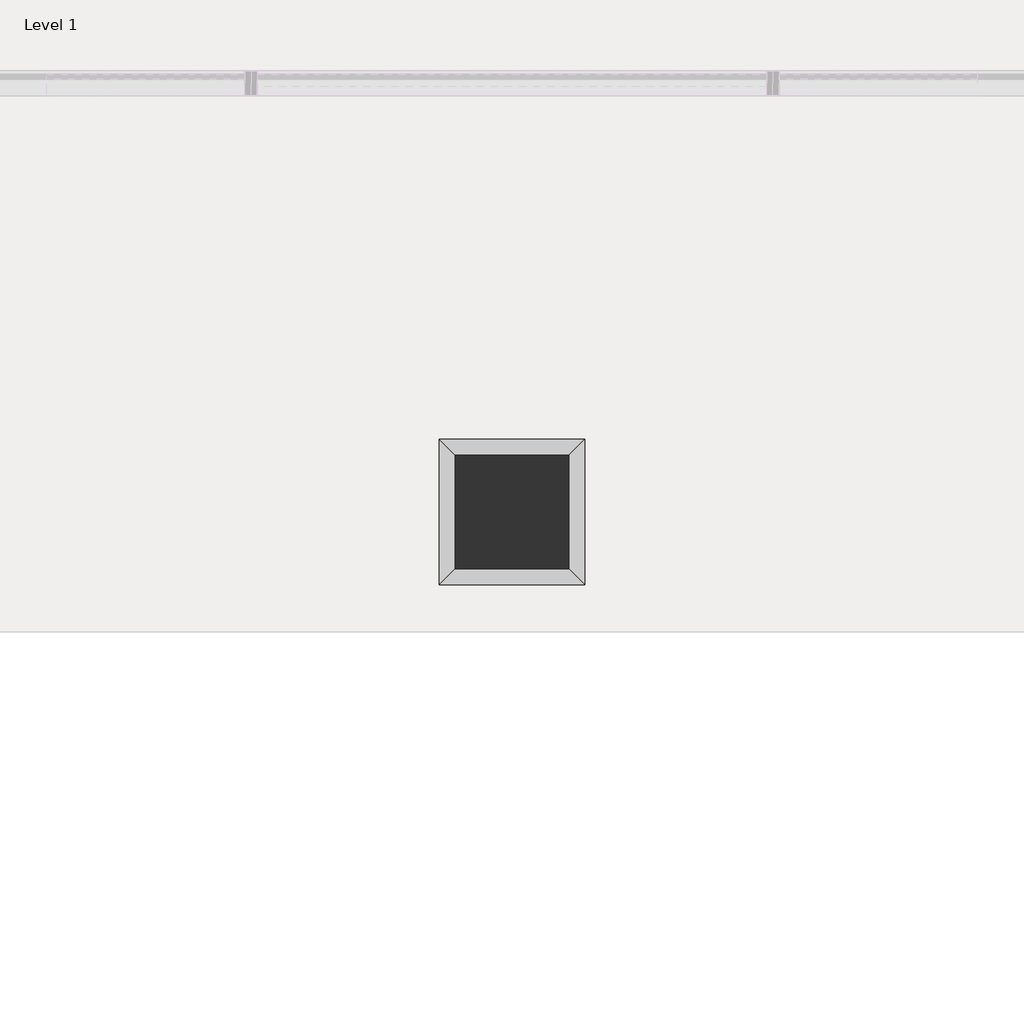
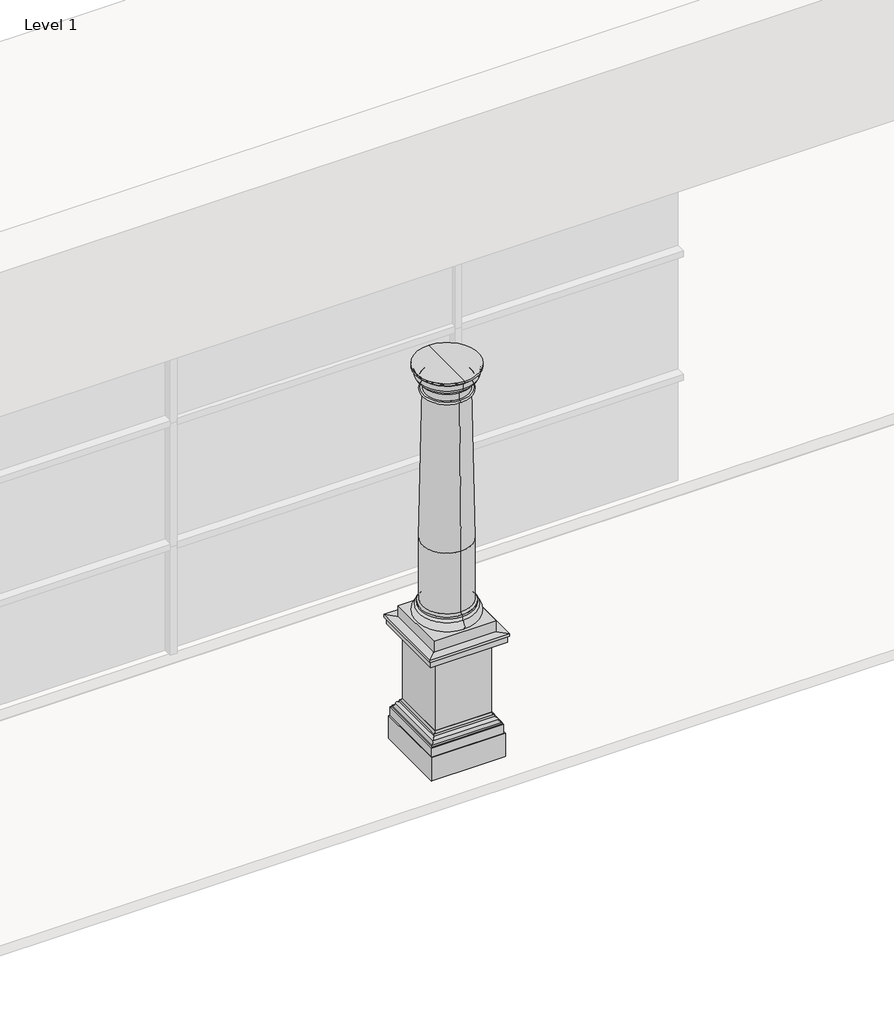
# One storey, part 5 of 8: 1 column.
"""IFC4 building model written with IfcOpenShell, lengths in millimetres."""

from ifc_helpers import new_model, si_unit, point, frame, origin, place, context, project, spatial, polyline, circle_curve, ellipse_curve, trimmed, outline, extrude, faceted_brep, element, save
from ifc_brep_helpers import plane_surface, cylinder_surface, revolved_surface, advanced_brep

model = new_model("IFC4")

# Units and contexts
model_context = context("Model", 3, world=origin())
ifc_project = project(units=[si_unit("LENGTHUNIT", "METRE", prefix="MILLI")], contexts=[model_context])

# Site, building, storey
site = spatial("IfcSite", under=ifc_project)
building = spatial("IfcBuilding", under=site)
storey = spatial("IfcBuildingStorey", under=building, Name="Level 1", Elevation=0.0)

# Column
placement = place(None, origin())
element("IfcColumn", 1, ObjectType="Doric Column : 16'  Height (10 2/3 x Dia.)", at=placement, inside=storey, context=model_context, shape_type="SolidModel", body=[
    extrude(outline(polyline([(5363.9045948, -1720.0769576), (5363.9045948, -2297.9269576), (4786.0545948, -2297.9269576), (4786.0545948, -1720.0769576), (5363.9045948, -1720.0769576)])), frame((0.0, 0.0, 1117.6), z_axis=(0.0, 0.0, 1.0), x_axis=(1.0, 0.0, 0.0)), (0.0, 0.0, 1.0), 107.95),
    faceted_brep([(4846.3795948, -2237.6019576, 1117.6), (4703.5045948, -2380.4769576, 1117.6), (5446.4545948, -2380.4769576, 1117.6), (5303.5795948, -2237.6019576, 1117.6), (4846.3795948, -2237.6019576, 1003.3), (5303.5795948, -2237.6019576, 1003.3), (4775.0966777, -2308.8848746, 1003.3), (5374.8625119, -2308.8848746, 1003.3), (4741.6045948, -2342.3769576, 1028.7), (5408.3545948, -2342.3769576, 1028.7), (4716.2045948, -2367.7769576, 1028.7), (5433.7545948, -2367.7769576, 1028.7), (4716.2045948, -2367.7769576, 1092.2), (5433.7545948, -2367.7769576, 1092.2), (4703.5045948, -2380.4769576, 1092.2), (5446.4545948, -2380.4769576, 1092.2), (5446.4545948, -1637.5269576, 1117.6), (5303.5795948, -1780.4019576, 1117.6), (5303.5795948, -1780.4019576, 1003.3), (5374.8625119, -1709.1190405, 1003.3), (5408.3545948, -1675.6269576, 1028.7), (5433.7545948, -1650.2269576, 1028.7), (5433.7545948, -1650.2269576, 1092.2), (5446.4545948, -1637.5269576, 1092.2), (4703.5045948, -1637.5269576, 1117.6), (4846.3795948, -1780.4019576, 1117.6), (4846.3795948, -1780.4019576, 1003.3), (4775.0966777, -1709.1190405, 1003.3), (4741.6045948, -1675.6269576, 1028.7), (4716.2045948, -1650.2269576, 1028.7), (4716.2045948, -1650.2269576, 1092.2), (4703.5045948, -1637.5269576, 1092.2)], [[[0, 1, 2, 3]], [[4, 0, 3, 5]], [[6, 4, 5, 7]], [[8, 6, 7, 9]], [[10, 8, 9, 11]], [[12, 10, 11, 13]], [[14, 12, 13, 15]], [[1, 14, 15, 2]], [[3, 2, 16, 17]], [[5, 3, 17, 18]], [[7, 5, 18, 19]], [[9, 7, 19, 20]], [[11, 9, 20, 21]], [[13, 11, 21, 22]], [[15, 13, 22, 23]], [[2, 15, 23, 16]], [[17, 16, 24, 25]], [[18, 17, 25, 26]], [[19, 18, 26, 27]], [[20, 19, 27, 28]], [[21, 20, 28, 29]], [[22, 21, 29, 30]], [[23, 22, 30, 31]], [[16, 23, 31, 24]], [[25, 24, 1, 0]], [[26, 25, 0, 4]], [[27, 26, 4, 6]], [[28, 27, 6, 8]], [[29, 28, 8, 10]], [[30, 29, 10, 12]], [[31, 30, 12, 14]], [[24, 31, 14, 1]]]),
    advanced_brep(
    [(5074.9795948, -2256.6519576, 1358.9), (5074.9795948, -1761.3519576, 1358.9), (5074.9795948, -1780.4019576, 1377.95), (5074.9795948, -2237.6019576, 1377.95), (5074.9795948, -1780.4019576, 1976.4375), (5074.9795948, -2237.6019576, 1976.4375), (5074.9795948, -2256.6519576, 1339.85), (5074.9795948, -1761.3519576, 1339.85), (5074.9795948, -2256.6519576, 1308.1), (5074.9795948, -1761.3519576, 1308.1), (5074.9795948, -2256.6519576, 1225.55), (5074.9795948, -1761.3519576, 1225.55), (5074.9795948, -2009.0019576, 1225.55), (5074.9795948, -1808.9769576, 3440.1125), (5074.9795948, -2209.0269576, 3440.1125), (5074.9795948, -2301.1019576, 3675.0625601), (5074.9795948, -1716.9019576, 3675.0625601), (5074.9795948, -1716.9019576, 3694.1125), (5074.9795948, -2301.1019576, 3694.1125), (5074.9795948, -2009.0019576, 3694.1125), (5074.9795948, -2282.0518974, 3656.0125), (5074.9795948, -1735.9520177, 3656.0125), (5074.9795948, -2278.8769576, 3656.0125), (5074.9795948, -1739.1269576, 3656.0125), (5074.9795948, -2278.8769576, 3605.2125), (5074.9795948, -1739.1269576, 3605.2125), (5074.9795948, -2272.5269576, 3605.2125), (5074.9795948, -1745.4769576, 3605.2125), (5074.9795948, -2228.0769576, 3560.7625), (5074.9795948, -1789.9269576, 3560.7625), (5074.9795948, -2228.0769576, 3541.7125), (5074.9795948, -1789.9269576, 3541.7125), (5074.9795948, -2209.0269576, 3541.7125), (5074.9795948, -1808.9769576, 3541.7125), (5074.9795948, -2209.0269576, 3459.1625), (5074.9795948, -1808.9769576, 3459.1625), (5074.9795948, -2228.0769576, 3459.1625), (5074.9795948, -1789.9269576, 3459.1625), (5074.9795948, -2228.0769576, 3440.1125), (5074.9795948, -1789.9269576, 3440.1125)],
    [
        (0, 1, circle_curve(frame((5074.9795948, -2009.0019576, 1358.9), z_axis=(0.0, 0.0, 1.0), x_axis=(0.0, 1.0, 0.0)), 247.65)),
        (1, 2, circle_curve(frame((5074.9795948, -1761.3519576, 1377.95), z_axis=(-1.0, 0.0, 0.0), x_axis=(0.0, -1.0, 0.0)), 19.05)),
        (2, 3, circle_curve(frame((5074.9795948, -2009.0019576, 1377.95), z_axis=(0.0, 0.0, -1.0), x_axis=(0.0, 1.0, 0.0)), 228.6)),
        (3, 0, circle_curve(frame((5074.9795948, -2256.6519576, 1377.95), z_axis=(-1.0, 0.0, 0.0), x_axis=(0.0, 1.0, 0.0)), 19.05)),
        (2, 4),
        (4, 5, circle_curve(frame((5074.9795948, -2009.0019576, 1976.4375), z_axis=(0.0, 0.0, -1.0), x_axis=(0.0, 1.0, 0.0)), 228.6)),
        (5, 3),
        (2, 3, circle_curve(frame((5074.9795948, -2009.0019576, 1377.95), z_axis=(0.0, 0.0, 1.0), x_axis=(0.0, 1.0, 0.0)), 228.6)),
        (5, 4, circle_curve(frame((5074.9795948, -2009.0019576, 1976.4375), z_axis=(0.0, 0.0, -1.0), x_axis=(0.0, 1.0, 0.0)), 228.6)),
        (1, 0, circle_curve(frame((5074.9795948, -2009.0019576, 1358.9), z_axis=(0.0, 0.0, 1.0), x_axis=(0.0, 1.0, 0.0)), 247.65)),
        (6, 7, circle_curve(frame((5074.9795948, -2009.0019576, 1339.85), z_axis=(0.0, 0.0, 1.0), x_axis=(0.0, 1.0, 0.0)), 247.65)),
        (7, 1),
        (0, 6),
        (7, 6, circle_curve(frame((5074.9795948, -2009.0019576, 1339.85), z_axis=(0.0, 0.0, 1.0), x_axis=(0.0, 1.0, 0.0)), 247.65)),
        (8, 9, circle_curve(frame((5074.9795948, -2009.0019576, 1308.1), z_axis=(0.0, 0.0, 1.0), x_axis=(0.0, 1.0, 0.0)), 247.65)),
        (9, 7, circle_curve(frame((5074.9795948, -1761.3519576, 1323.975), z_axis=(1.0, 0.0, 0.0), x_axis=(0.0, -1.0, 0.0)), 15.875)),
        (6, 8, circle_curve(frame((5074.9795948, -2256.6519576, 1323.975), z_axis=(1.0, 0.0, 0.0), x_axis=(0.0, 1.0, 0.0)), 15.875)),
        (9, 8, circle_curve(frame((5074.9795948, -2009.0019576, 1308.1), z_axis=(0.0, 0.0, 1.0), x_axis=(0.0, 1.0, 0.0)), 247.65)),
        (10, 11, circle_curve(frame((5074.9795948, -2009.0019576, 1225.55), z_axis=(0.0, 0.0, 1.0), x_axis=(0.0, 1.0, 0.0)), 247.65)),
        (11, 9, circle_curve(frame((5074.9795948, -1761.3519576, 1266.825), z_axis=(1.0, 0.0, 0.0), x_axis=(0.0, -1.0, 0.0)), 41.275)),
        (8, 10, circle_curve(frame((5074.9795948, -2256.6519576, 1266.825), z_axis=(1.0, 0.0, 0.0), x_axis=(0.0, 1.0, 0.0)), 41.275)),
        (11, 10, circle_curve(frame((5074.9795948, -2009.0019576, 1225.55), z_axis=(0.0, 0.0, 1.0), x_axis=(0.0, 1.0, 0.0)), 247.65)),
        (12, 11),
        (10, 12),
        (4, 13),
        (13, 14, circle_curve(frame((5074.9795948, -2009.0019576, 3440.1125), z_axis=(0.0, 0.0, -1.0), x_axis=(0.0, 1.0, 0.0)), 200.025)),
        (14, 5),
        (14, 13, circle_curve(frame((5074.9795948, -2009.0019576, 3440.1125), z_axis=(0.0, 0.0, -1.0), x_axis=(0.0, 1.0, 0.0)), 200.025)),
        (15, 16, circle_curve(frame((5074.9795948, -2009.0019576, 3675.0625601), z_axis=(0.0, 0.0, 1.0), x_axis=(0.0, 1.0, 0.0)), 292.1)),
        (16, 17),
        (17, 18, circle_curve(frame((5074.9795948, -2009.0019576, 3694.1125), z_axis=(0.0, 0.0, -1.0), x_axis=(0.0, 1.0, 0.0)), 292.1)),
        (18, 15),
        (17, 19),
        (19, 18),
        (17, 18, circle_curve(frame((5074.9795948, -2009.0019576, 3694.1125), z_axis=(0.0, 0.0, 1.0), x_axis=(0.0, 1.0, 0.0)), 292.1)),
        (16, 15, circle_curve(frame((5074.9795948, -2009.0019576, 3675.0625601), z_axis=(0.0, 0.0, 1.0), x_axis=(0.0, 1.0, 0.0)), 292.1)),
        (20, 21, circle_curve(frame((5074.9795948, -2009.0019576, 3656.0125), z_axis=(0.0, 0.0, 1.0), x_axis=(0.0, 1.0, 0.0)), 273.0499399)),
        (21, 16, circle_curve(frame((5074.9795948, -1716.9019576, 3656.0125), z_axis=(-1.0, 0.0, 0.0), x_axis=(0.0, -1.0, 0.0)), 19.0500601)),
        (15, 20, circle_curve(frame((5074.9795948, -2301.1019576, 3656.0125), z_axis=(-1.0, 0.0, 0.0), x_axis=(0.0, 1.0, 0.0)), 19.0500601)),
        (21, 20, circle_curve(frame((5074.9795948, -2009.0019576, 3656.0125), z_axis=(0.0, 0.0, 1.0), x_axis=(0.0, 1.0, 0.0)), 273.0499399)),
        (22, 23, circle_curve(frame((5074.9795948, -2009.0019576, 3656.0125), z_axis=(0.0, 0.0, 1.0), x_axis=(0.0, 1.0, 0.0)), 269.875)),
        (23, 21),
        (20, 22),
        (23, 22, circle_curve(frame((5074.9795948, -2009.0019576, 3656.0125), z_axis=(0.0, 0.0, 1.0), x_axis=(0.0, 1.0, 0.0)), 269.875)),
        (24, 25, circle_curve(frame((5074.9795948, -2009.0019576, 3605.2125), z_axis=(0.0, 0.0, 1.0), x_axis=(0.0, 1.0, 0.0)), 269.875)),
        (25, 23),
        (22, 24),
        (25, 24, circle_curve(frame((5074.9795948, -2009.0019576, 3605.2125), z_axis=(0.0, 0.0, 1.0), x_axis=(0.0, 1.0, 0.0)), 269.875)),
        (26, 27, circle_curve(frame((5074.9795948, -2009.0019576, 3605.2125), z_axis=(0.0, 0.0, 1.0), x_axis=(0.0, 1.0, 0.0)), 263.525)),
        (27, 25),
        (24, 26),
        (27, 26, circle_curve(frame((5074.9795948, -2009.0019576, 3605.2125), z_axis=(0.0, 0.0, 1.0), x_axis=(0.0, 1.0, 0.0)), 263.525)),
        (28, 29, circle_curve(frame((5074.9795948, -2009.0019576, 3560.7625), z_axis=(0.0, 0.0, 1.0), x_axis=(0.0, 1.0, 0.0)), 219.075)),
        (29, 27, circle_curve(frame((5074.9795948, -1789.9269576, 3605.2125), z_axis=(1.0, 0.0, 0.0), x_axis=(0.0, -1.0, 0.0)), 44.45)),
        (26, 28, circle_curve(frame((5074.9795948, -2228.0769576, 3605.2125), z_axis=(1.0, 0.0, 0.0), x_axis=(0.0, 1.0, 0.0)), 44.45)),
        (29, 28, circle_curve(frame((5074.9795948, -2009.0019576, 3560.7625), z_axis=(0.0, 0.0, 1.0), x_axis=(0.0, 1.0, 0.0)), 219.075)),
        (30, 31, circle_curve(frame((5074.9795948, -2009.0019576, 3541.7125), z_axis=(0.0, 0.0, 1.0), x_axis=(0.0, 1.0, 0.0)), 219.075)),
        (31, 29, circle_curve(frame((5074.9795948, -1789.9269576, 3551.2375), z_axis=(1.0, 0.0, 0.0), x_axis=(0.0, -1.0, 0.0)), 9.525)),
        (28, 30, circle_curve(frame((5074.9795948, -2228.0769576, 3551.2375), z_axis=(1.0, 0.0, 0.0), x_axis=(0.0, 1.0, 0.0)), 9.525)),
        (31, 30, circle_curve(frame((5074.9795948, -2009.0019576, 3541.7125), z_axis=(0.0, 0.0, 1.0), x_axis=(0.0, 1.0, 0.0)), 219.075)),
        (32, 33, circle_curve(frame((5074.9795948, -2009.0019576, 3541.7125), z_axis=(0.0, 0.0, 1.0), x_axis=(0.0, 1.0, 0.0)), 200.025)),
        (33, 31),
        (30, 32),
        (33, 32, circle_curve(frame((5074.9795948, -2009.0019576, 3541.7125), z_axis=(0.0, 0.0, 1.0), x_axis=(0.0, 1.0, 0.0)), 200.025)),
        (34, 35, circle_curve(frame((5074.9795948, -2009.0019576, 3459.1625), z_axis=(0.0, 0.0, 1.0), x_axis=(0.0, 1.0, 0.0)), 200.025)),
        (35, 33),
        (32, 34),
        (35, 34, circle_curve(frame((5074.9795948, -2009.0019576, 3459.1625), z_axis=(0.0, 0.0, 1.0), x_axis=(0.0, 1.0, 0.0)), 200.025)),
        (36, 37, circle_curve(frame((5074.9795948, -2009.0019576, 3459.1625), z_axis=(0.0, 0.0, 1.0), x_axis=(0.0, 1.0, 0.0)), 219.075)),
        (37, 35),
        (34, 36),
        (37, 36, circle_curve(frame((5074.9795948, -2009.0019576, 3459.1625), z_axis=(0.0, 0.0, 1.0), x_axis=(0.0, 1.0, 0.0)), 219.075)),
        (38, 39, circle_curve(frame((5074.9795948, -2009.0019576, 3440.1125), z_axis=(0.0, 0.0, 1.0), x_axis=(0.0, 1.0, 0.0)), 219.075)),
        (39, 37, circle_curve(frame((5074.9795948, -1789.9269576, 3449.6375), z_axis=(1.0, 0.0, 0.0), x_axis=(0.0, -1.0, 0.0)), 9.525)),
        (36, 38, circle_curve(frame((5074.9795948, -2228.0769576, 3449.6375), z_axis=(1.0, 0.0, 0.0), x_axis=(0.0, 1.0, 0.0)), 9.525)),
        (39, 38, circle_curve(frame((5074.9795948, -2009.0019576, 3440.1125), z_axis=(0.0, 0.0, 1.0), x_axis=(0.0, 1.0, 0.0)), 219.075)),
        (13, 39),
        (38, 14),
    ],
    [
        revolved_surface(trimmed(ellipse_curve(frame((5074.9795948, -1761.3519576, 1377.95), z_axis=(1.0, 0.0, 0.0), x_axis=(0.0, -1.0, 0.0)), 19.05, 19.05), [point((5074.9795948, -1780.4019576, 1377.95))], [point((5074.9795948, -1761.3519576, 1358.9))], True, "CARTESIAN"), (5074.9795948, -2009.0019576, 3694.1125), (0.0, 0.0, -1.0)),
        cylinder_surface(frame((5074.9795948, -2009.0019576, 3694.1125), z_axis=(0.0, 0.0, -1.0), x_axis=(0.0, 1.0, 0.0)), 228.6),
        cylinder_surface(frame((5074.9795948, -2009.0019576, 3694.1125), z_axis=(0.0, 0.0, -1.0), x_axis=(0.0, 1.0, 0.0)), 247.65),
        revolved_surface(trimmed(ellipse_curve(frame((5074.9795948, -1761.3519576, 1323.975), z_axis=(-1.0, 0.0, 0.0), x_axis=(0.0, -1.0, 0.0)), 15.875, 15.875), [point((5074.9795948, -1761.3519576, 1339.85))], [point((5074.9795948, -1761.3519576, 1308.1))], True, "CARTESIAN"), (5074.9795948, -2009.0019576, 3694.1125), (0.0, 0.0, -1.0)),
        revolved_surface(trimmed(ellipse_curve(frame((5074.9795948, -1761.3519576, 1266.825), z_axis=(-1.0, 0.0, 0.0), x_axis=(0.0, -1.0, 0.0)), 41.275, 41.275), [point((5074.9795948, -1761.3519576, 1308.1))], [point((5074.9795948, -1761.3519576, 1225.55))], True, "CARTESIAN"), (5074.9795948, -2009.0019576, 3694.1125), (0.0, 0.0, -1.0)),
        plane_surface(frame((5074.9795948, -2009.0019576, 1225.55), z_axis=(0.0, 0.0, -1.0), x_axis=(0.0, 1.0, 0.0))),
        revolved_surface(polyline([(5074.9795948, -1808.9769576, 3440.1125), (5074.9795948, -1780.4019576, 1976.4375)]), (5074.9795948, -2009.0019576, 3694.1125), (0.0, 0.0, -1.0)),
        cylinder_surface(frame((5074.9795948, -2009.0019576, 3694.1125), z_axis=(0.0, 0.0, -1.0), x_axis=(0.0, 1.0, 0.0)), 292.1),
        plane_surface(frame((5074.9795948, -2009.0019576, 3694.1125), z_axis=(0.0, 0.0, 1.0), x_axis=(0.0, 1.0, 0.0))),
        revolved_surface(trimmed(ellipse_curve(frame((5074.9795948, -1716.9019576, 3656.0125), z_axis=(1.0, 0.0, 0.0), x_axis=(0.0, -1.0, 0.0)), 19.0500601, 19.0500601), [point((5074.9795948, -1716.9019576, 3675.0625601))], [point((5074.9795948, -1735.9520177, 3656.0125))], True, "CARTESIAN"), (5074.9795948, -2009.0019576, 3694.1125), (0.0, 0.0, -1.0)),
        plane_surface(frame((5074.9795948, -2009.0019576, 3656.0125), z_axis=(0.0, 0.0, -1.0), x_axis=(0.0, 1.0, 0.0))),
        cylinder_surface(frame((5074.9795948, -2009.0019576, 3694.1125), z_axis=(0.0, 0.0, -1.0), x_axis=(0.0, 1.0, 0.0)), 269.875),
        plane_surface(frame((5074.9795948, -2009.0019576, 3605.2125), z_axis=(0.0, 0.0, -1.0), x_axis=(0.0, 1.0, 0.0))),
        revolved_surface(trimmed(ellipse_curve(frame((5074.9795948, -1789.9269576, 3605.2125), z_axis=(-1.0, 0.0, 0.0), x_axis=(0.0, -1.0, 0.0)), 44.45, 44.45), [point((5074.9795948, -1745.4769576, 3605.2125))], [point((5074.9795948, -1789.9269576, 3560.7625))], True, "CARTESIAN"), (5074.9795948, -2009.0019576, 3694.1125), (0.0, 0.0, -1.0)),
        revolved_surface(trimmed(ellipse_curve(frame((5074.9795948, -1789.9269576, 3551.2375), z_axis=(-1.0, 0.0, 0.0), x_axis=(0.0, -1.0, 0.0)), 9.525, 9.525), [point((5074.9795948, -1789.9269576, 3560.7625))], [point((5074.9795948, -1789.9269576, 3541.7125))], True, "CARTESIAN"), (5074.9795948, -2009.0019576, 3694.1125), (0.0, 0.0, -1.0)),
        plane_surface(frame((5074.9795948, -2009.0019576, 3541.7125), z_axis=(0.0, 0.0, -1.0), x_axis=(0.0, 1.0, 0.0))),
        cylinder_surface(frame((5074.9795948, -2009.0019576, 3694.1125), z_axis=(0.0, 0.0, -1.0), x_axis=(0.0, 1.0, 0.0)), 200.025),
        plane_surface(frame((5074.9795948, -2009.0019576, 3459.1625), z_axis=(0.0, 0.0, 1.0), x_axis=(0.0, 1.0, 0.0))),
        revolved_surface(trimmed(ellipse_curve(frame((5074.9795948, -1789.9269576, 3449.6375), z_axis=(-1.0, 0.0, 0.0), x_axis=(0.0, -1.0, 0.0)), 9.525, 9.525), [point((5074.9795948, -1789.9269576, 3459.1625))], [point((5074.9795948, -1789.9269576, 3440.1125))], True, "CARTESIAN"), (5074.9795948, -2009.0019576, 3694.1125), (0.0, 0.0, -1.0)),
        plane_surface(frame((5074.9795948, -2009.0019576, 3440.1125), z_axis=(0.0, 0.0, -1.0), x_axis=(0.0, 1.0, 0.0))),
    ],
    [
        (0, [[1, 2, 3, 4]]),
        (1, [[-3, 5, 6, 7]]),
        (1, [[8, -7, 9, -5]]),
        (0, [[10, -4, -8, -2]]),
        (2, [[11, 12, -1, 13]]),
        (2, [[14, -13, -10, -12]]),
        (3, [[15, 16, -11, 17]]),
        (3, [[18, -17, -14, -16]]),
        (4, [[19, 20, -15, 21]]),
        (4, [[22, -21, -18, -20]]),
        (5, [[23, -19, 24]]),
        (5, [[-24, -22, -23]]),
        (6, [[-6, 25, 26, 27]]),
        (6, [[-9, -27, 28, -25]]),
        (7, [[29, 30, 31, 32]]),
        (8, [[-31, 33, 34]]),
        (8, [[35, -34, -33]]),
        (7, [[36, -32, -35, -30]]),
        (9, [[37, 38, -29, 39]]),
        (9, [[40, -39, -36, -38]]),
        (10, [[41, 42, -37, 43]]),
        (10, [[44, -43, -40, -42]]),
        (11, [[45, 46, -41, 47]]),
        (11, [[48, -47, -44, -46]]),
        (12, [[49, 50, -45, 51]]),
        (12, [[52, -51, -48, -50]]),
        (13, [[53, 54, -49, 55]]),
        (13, [[56, -55, -52, -54]]),
        (14, [[57, 58, -53, 59]]),
        (14, [[60, -59, -56, -58]]),
        (15, [[61, 62, -57, 63]]),
        (15, [[64, -63, -60, -62]]),
        (16, [[65, 66, -61, 67]]),
        (16, [[68, -67, -64, -66]]),
        (17, [[69, 70, -65, 71]]),
        (17, [[72, -71, -68, -70]]),
        (18, [[73, 74, -69, 75]]),
        (18, [[76, -75, -72, -74]]),
        (19, [[-26, 77, -73, 78]]),
        (19, [[-28, -78, -76, -77]]),
    ],
),
    advanced_brep(
    [(5420.4247411, -1663.5568112, -101.6), (5420.4247411, -1663.5568112, 127.0), (5420.4247411, -2354.4471039, 127.0), (5420.4247411, -2354.4471039, -101.6), (5303.5795948, -1780.4019576, -101.6), (5303.5795948, -2237.6019576, -101.6), (5303.5795948, -1780.4019576, 317.5), (5303.5795948, -2237.6019576, 317.5), (5337.8747411, -1746.1068112, 317.5), (5337.8747411, -2271.8971039, 317.5), (5356.9247411, -1727.0568112, 298.45), (5356.9247411, -2290.9471039, 298.45), (5356.9247411, -1727.0568112, 279.4), (5356.9247411, -2290.9471039, 279.4), (5379.1497411, -1704.8318112, 257.175), (5379.1497411, -2313.1721039, 257.175), (5401.3747411, -1682.6068112, 234.95), (5401.3747411, -2335.3971039, 234.95), (5401.3747411, -1682.6068112, 215.9), (5401.3747411, -2335.3971039, 215.9), (5410.8997411, -1673.0818112, 215.9), (5410.8997411, -2344.9221039, 215.9), (5410.8997411, -1673.0818112, 127.0), (5410.8997411, -2344.9221039, 127.0), (4729.5344485, -2354.4471039, 127.0), (4729.5344485, -2354.4471039, -101.6), (4846.3795948, -2237.6019576, -101.6), (4846.3795948, -2237.6019576, 317.5), (4812.0844485, -2271.8971039, 317.5), (4793.0344485, -2290.9471039, 298.45), (4793.0344485, -2290.9471039, 279.4), (4770.8094485, -2313.1721039, 257.175), (4748.5844485, -2335.3971039, 234.95), (4748.5844485, -2335.3971039, 215.9), (4739.0594485, -2344.9221039, 215.9), (4739.0594485, -2344.9221039, 127.0), (4729.5344485, -1663.5568112, 127.0), (4729.5344485, -1663.5568112, -101.6), (4846.3795948, -1780.4019576, -101.6), (4846.3795948, -1780.4019576, 317.5), (4812.0844485, -1746.1068112, 317.5), (4793.0344485, -1727.0568112, 298.45), (4793.0344485, -1727.0568112, 279.4), (4770.8094485, -1704.8318112, 257.175), (4748.5844485, -1682.6068112, 234.95), (4748.5844485, -1682.6068112, 215.9), (4739.0594485, -1673.0818112, 215.9), (4739.0594485, -1673.0818112, 127.0)],
    [
        (0, 1),
        (1, 2),
        (2, 3),
        (3, 0),
        (4, 0),
        (3, 5),
        (5, 4),
        (6, 4),
        (5, 7),
        (7, 6),
        (8, 6),
        (7, 9),
        (9, 8),
        (10, 8, ellipse_curve(frame((5356.9247411, -1727.0568112, 317.5), z_axis=(-0.7071067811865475, 0.7071067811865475, 0.0), x_axis=(-0.7071067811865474, -0.7071067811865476, 0.0)), 26.9407684, 19.05)),
        (9, 11, ellipse_curve(frame((5356.9247411, -2290.9471039, 317.5), z_axis=(-0.7071067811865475, -0.7071067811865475, 0.0), x_axis=(0.7071067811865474, -0.7071067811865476, 0.0)), 26.9407684, 19.05)),
        (11, 10),
        (12, 10),
        (11, 13),
        (13, 12),
        (14, 12, ellipse_curve(frame((5356.9247411, -1727.0568112, 257.175), z_axis=(0.7071067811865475, -0.7071067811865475, 0.0), x_axis=(0.7071067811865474, 0.7071067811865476, 0.0)), 31.4308964, 22.225)),
        (13, 15, ellipse_curve(frame((5356.9247411, -2290.9471039, 257.175), z_axis=(0.7071067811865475, 0.7071067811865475, 0.0), x_axis=(-0.7071067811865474, 0.7071067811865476, 0.0)), 31.4308964, 22.225)),
        (15, 14),
        (16, 14, ellipse_curve(frame((5401.3747411, -1682.6068112, 257.175), z_axis=(-0.7071067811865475, 0.7071067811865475, 0.0), x_axis=(-0.7071067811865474, -0.7071067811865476, 0.0)), 31.4308964, 22.225)),
        (15, 17, ellipse_curve(frame((5401.3747411, -2335.3971039, 257.175), z_axis=(-0.7071067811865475, -0.7071067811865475, 0.0), x_axis=(0.7071067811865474, -0.7071067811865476, 0.0)), 31.4308964, 22.225)),
        (17, 16),
        (18, 16),
        (17, 19),
        (19, 18),
        (20, 18),
        (19, 21),
        (21, 20),
        (22, 20),
        (21, 23),
        (23, 22),
        (1, 22),
        (23, 2),
        (2, 24),
        (24, 25),
        (25, 3),
        (25, 26),
        (26, 5),
        (26, 27),
        (27, 7),
        (27, 28),
        (28, 9),
        (28, 29, ellipse_curve(frame((4793.0344485, -2290.9471039, 317.5), z_axis=(-0.7071067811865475, 0.7071067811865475, 0.0), x_axis=(-0.7071067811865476, -0.7071067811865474, 0.0)), 26.9407684, 19.05)),
        (29, 11),
        (29, 30),
        (30, 13),
        (30, 31, ellipse_curve(frame((4793.0344485, -2290.9471039, 257.175), z_axis=(0.7071067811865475, -0.7071067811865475, 0.0), x_axis=(0.7071067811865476, 0.7071067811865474, 0.0)), 31.4308964, 22.225)),
        (31, 15),
        (31, 32, ellipse_curve(frame((4748.5844485, -2335.3971039, 257.175), z_axis=(-0.7071067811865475, 0.7071067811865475, 0.0), x_axis=(-0.7071067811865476, -0.7071067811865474, 0.0)), 31.4308964, 22.225)),
        (32, 17),
        (32, 33),
        (33, 19),
        (33, 34),
        (34, 21),
        (34, 35),
        (35, 23),
        (35, 24),
        (24, 36),
        (36, 37),
        (37, 25),
        (37, 38),
        (38, 26),
        (38, 39),
        (39, 27),
        (39, 40),
        (40, 28),
        (40, 41, ellipse_curve(frame((4793.0344485, -1727.0568112, 317.5), z_axis=(0.7071067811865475, 0.7071067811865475, 0.0), x_axis=(-0.7071067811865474, 0.7071067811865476, 0.0)), 26.9407684, 19.05)),
        (41, 29),
        (41, 42),
        (42, 30),
        (42, 43, ellipse_curve(frame((4793.0344485, -1727.0568112, 257.175), z_axis=(-0.7071067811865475, -0.7071067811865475, 0.0), x_axis=(0.7071067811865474, -0.7071067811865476, 0.0)), 31.4308964, 22.225)),
        (43, 31),
        (43, 44, ellipse_curve(frame((4748.5844485, -1682.6068112, 257.175), z_axis=(0.7071067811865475, 0.7071067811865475, 0.0), x_axis=(-0.7071067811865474, 0.7071067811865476, 0.0)), 31.4308964, 22.225)),
        (44, 32),
        (44, 45),
        (45, 33),
        (45, 46),
        (46, 34),
        (46, 47),
        (47, 35),
        (47, 36),
        (36, 1),
        (0, 37),
        (4, 38),
        (6, 39),
        (8, 40),
        (10, 41),
        (12, 42),
        (14, 43),
        (16, 44),
        (18, 45),
        (20, 46),
        (22, 47),
    ],
    [
        plane_surface(frame((5420.4247411, -1663.5568112, 127.0), z_axis=(1.0, 0.0, 0.0), x_axis=(0.0, -1.0, 0.0))),
        plane_surface(frame((5420.4247411, -1663.5568112, -101.6), z_axis=(0.0, 0.0, -1.0), x_axis=(0.0, -1.0, 0.0))),
        plane_surface(frame((5303.5795948, -1780.4019576, -101.6), z_axis=(-1.0, 0.0, 0.0), x_axis=(0.0, -1.0, 0.0))),
        plane_surface(frame((5303.5795948, -1780.4019576, 317.5), z_axis=(0.0, 0.0, 1.0), x_axis=(0.0, -1.0, 0.0))),
        revolved_surface(polyline([(5375.9747411, -2309.9971039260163, 317.5), (5375.9747411, -1708.0068111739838, 317.5)]), (5356.9247411, -1650.5418844, 317.5), (0.0, -1.0, 0.0)),
        plane_surface(frame((5356.9247411, -1727.0568112, 298.45), z_axis=(1.0, 0.0, 0.0), x_axis=(0.0, -1.0, 0.0))),
        cylinder_surface(frame((5356.9247411, -1650.5418844, 257.175), z_axis=(0.0, 1.0, 0.0), x_axis=(1.0, 0.0, 0.0)), 22.225),
        revolved_surface(polyline([(5423.599741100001, -2357.622103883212, 257.175), (5423.599741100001, -1660.3818112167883, 257.175)]), (5401.3747411, -1650.5418844, 257.175), (0.0, -1.0, 0.0)),
        plane_surface(frame((5401.3747411, -1682.6068112, 234.95), z_axis=(1.0, 0.0, 0.0), x_axis=(0.0, -1.0, 0.0))),
        plane_surface(frame((5401.3747411, -1682.6068112, 215.9), z_axis=(0.0, 0.0, 1.0), x_axis=(0.0, -1.0, 0.0))),
        plane_surface(frame((5410.8997411, -1673.0818112, 215.9), z_axis=(1.0, 0.0, 0.0), x_axis=(0.0, -1.0, 0.0))),
        plane_surface(frame((5410.8997411, -1673.0818112, 127.0), z_axis=(0.0, 0.0, 1.0), x_axis=(0.0, -1.0, 0.0))),
        plane_surface(frame((5420.4247411, -2354.4471039, 127.0), z_axis=(0.0, -1.0, 0.0), x_axis=(-1.0, 0.0, 0.0))),
        plane_surface(frame((5420.4247411, -2354.4471039, -101.6), z_axis=(0.0, 0.0, -1.0), x_axis=(-1.0, 0.0, 0.0))),
        plane_surface(frame((5303.5795948, -2237.6019576, -101.6), z_axis=(0.0, 1.0, 0.0), x_axis=(-1.0, 0.0, 0.0))),
        plane_surface(frame((5303.5795948, -2237.6019576, 317.5), z_axis=(0.0, 0.0, 1.0), x_axis=(-1.0, 0.0, 0.0))),
        revolved_surface(polyline([(4773.984448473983, -2309.9971039, 317.5), (5375.974741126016, -2309.9971039, 317.5)]), (5433.439668, -2290.9471039, 317.5), (-1.0, 0.0, 0.0)),
        plane_surface(frame((5356.9247411, -2290.9471039, 298.45), z_axis=(0.0, -1.0, 0.0), x_axis=(-1.0, 0.0, 0.0))),
        cylinder_surface(frame((5433.439668, -2290.9471039, 257.175), z_axis=(1.0, 0.0, 0.0), x_axis=(0.0, -1.0, 0.0)), 22.225),
        revolved_surface(polyline([(4726.359448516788, -2357.6221038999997, 257.175), (5423.599741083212, -2357.6221038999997, 257.175)]), (5433.439668, -2335.3971039, 257.175), (-1.0, 0.0, 0.0)),
        plane_surface(frame((5401.3747411, -2335.3971039, 234.95), z_axis=(0.0, -1.0, 0.0), x_axis=(-1.0, 0.0, 0.0))),
        plane_surface(frame((5401.3747411, -2335.3971039, 215.9), z_axis=(0.0, 0.0, 1.0), x_axis=(-1.0, 0.0, 0.0))),
        plane_surface(frame((5410.8997411, -2344.9221039, 215.9), z_axis=(0.0, -1.0, 0.0), x_axis=(-1.0, 0.0, 0.0))),
        plane_surface(frame((5410.8997411, -2344.9221039, 127.0), z_axis=(0.0, 0.0, 1.0), x_axis=(-1.0, 0.0, 0.0))),
        plane_surface(frame((4729.5344485, -2354.4471039, 127.0), z_axis=(-1.0, 0.0, 0.0), x_axis=(0.0, 1.0, 0.0))),
        plane_surface(frame((4729.5344485, -2354.4471039, -101.6), z_axis=(0.0, 0.0, -1.0), x_axis=(0.0, 1.0, 0.0))),
        plane_surface(frame((4846.3795948, -2237.6019576, -101.6), z_axis=(1.0, 0.0, 0.0), x_axis=(0.0, 1.0, 0.0))),
        plane_surface(frame((4846.3795948, -2237.6019576, 317.5), z_axis=(0.0, 0.0, 1.0), x_axis=(0.0, 1.0, 0.0))),
        revolved_surface(polyline([(4773.984448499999, -1708.0068111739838, 317.5), (4773.984448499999, -2309.9971039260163, 317.5)]), (4793.0344485, -2367.4620307, 317.5), (0.0, 1.0, 0.0)),
        plane_surface(frame((4793.0344485, -2290.9471039, 298.45), z_axis=(-1.0, 0.0, 0.0), x_axis=(0.0, 1.0, 0.0))),
        cylinder_surface(frame((4793.0344485, -2367.4620307, 257.175), z_axis=(0.0, -1.0, 0.0), x_axis=(-1.0, 0.0, 0.0)), 22.225),
        revolved_surface(polyline([(4726.359448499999, -1660.3818112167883, 257.175), (4726.359448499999, -2357.622103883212, 257.175)]), (4748.5844485, -2367.4620307, 257.175), (0.0, 1.0, 0.0)),
        plane_surface(frame((4748.5844485, -2335.3971039, 234.95), z_axis=(-1.0, 0.0, 0.0), x_axis=(0.0, 1.0, 0.0))),
        plane_surface(frame((4748.5844485, -2335.3971039, 215.9), z_axis=(0.0, 0.0, 1.0), x_axis=(0.0, 1.0, 0.0))),
        plane_surface(frame((4739.0594485, -2344.9221039, 215.9), z_axis=(-1.0, 0.0, 0.0), x_axis=(0.0, 1.0, 0.0))),
        plane_surface(frame((4739.0594485, -2344.9221039, 127.0), z_axis=(0.0, 0.0, 1.0), x_axis=(0.0, 1.0, 0.0))),
        plane_surface(frame((4729.5344485, -1663.5568112, 127.0), z_axis=(0.0, 1.0, 0.0), x_axis=(1.0, 0.0, 0.0))),
        plane_surface(frame((4729.5344485, -1663.5568112, -101.6), z_axis=(0.0, 0.0, -1.0), x_axis=(1.0, 0.0, 0.0))),
        plane_surface(frame((4846.3795948, -1780.4019576, -101.6), z_axis=(0.0, -1.0, 0.0), x_axis=(1.0, 0.0, 0.0))),
        plane_surface(frame((4846.3795948, -1780.4019576, 317.5), z_axis=(0.0, 0.0, 1.0), x_axis=(1.0, 0.0, 0.0))),
        revolved_surface(polyline([(5375.974741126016, -1708.0068112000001, 317.5), (4773.984448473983, -1708.0068112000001, 317.5)]), (4716.5195217, -1727.0568112, 317.5), (1.0, 0.0, 0.0)),
        plane_surface(frame((4793.0344485, -1727.0568112, 298.45), z_axis=(0.0, 1.0, 0.0), x_axis=(1.0, 0.0, 0.0))),
        cylinder_surface(frame((4716.5195217, -1727.0568112, 257.175), z_axis=(-1.0, 0.0, 0.0), x_axis=(0.0, 1.0, 0.0)), 22.225),
        revolved_surface(polyline([(5423.599741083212, -1660.3818112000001, 257.175), (4726.359448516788, -1660.3818112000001, 257.175)]), (4716.5195217, -1682.6068112, 257.175), (1.0, 0.0, 0.0)),
        plane_surface(frame((4748.5844485, -1682.6068112, 234.95), z_axis=(0.0, 1.0, 0.0), x_axis=(1.0, 0.0, 0.0))),
        plane_surface(frame((4748.5844485, -1682.6068112, 215.9), z_axis=(0.0, 0.0, 1.0), x_axis=(1.0, 0.0, 0.0))),
        plane_surface(frame((4739.0594485, -1673.0818112, 215.9), z_axis=(0.0, 1.0, 0.0), x_axis=(1.0, 0.0, 0.0))),
        plane_surface(frame((4739.0594485, -1673.0818112, 127.0), z_axis=(0.0, 0.0, 1.0), x_axis=(1.0, 0.0, 0.0))),
    ],
    [
        (0, [[1, 2, 3, 4]]),
        (1, [[5, -4, 6, 7]]),
        (2, [[8, -7, 9, 10]]),
        (3, [[11, -10, 12, 13]]),
        (4, [[14, -13, 15, 16]]),
        (5, [[17, -16, 18, 19]]),
        (6, [[20, -19, 21, 22]]),
        (7, [[23, -22, 24, 25]]),
        (8, [[26, -25, 27, 28]]),
        (9, [[29, -28, 30, 31]]),
        (10, [[32, -31, 33, 34]]),
        (11, [[35, -34, 36, -2]]),
        (12, [[-3, 37, 38, 39]]),
        (13, [[-6, -39, 40, 41]]),
        (14, [[-9, -41, 42, 43]]),
        (15, [[-12, -43, 44, 45]]),
        (16, [[-15, -45, 46, 47]]),
        (17, [[-18, -47, 48, 49]]),
        (18, [[-21, -49, 50, 51]]),
        (19, [[-24, -51, 52, 53]]),
        (20, [[-27, -53, 54, 55]]),
        (21, [[-30, -55, 56, 57]]),
        (22, [[-33, -57, 58, 59]]),
        (23, [[-36, -59, 60, -37]]),
        (24, [[-38, 61, 62, 63]]),
        (25, [[-40, -63, 64, 65]]),
        (26, [[-42, -65, 66, 67]]),
        (27, [[-44, -67, 68, 69]]),
        (28, [[-46, -69, 70, 71]]),
        (29, [[-48, -71, 72, 73]]),
        (30, [[-50, -73, 74, 75]]),
        (31, [[-52, -75, 76, 77]]),
        (32, [[-54, -77, 78, 79]]),
        (33, [[-56, -79, 80, 81]]),
        (34, [[-58, -81, 82, 83]]),
        (35, [[-60, -83, 84, -61]]),
        (36, [[-62, 85, -1, 86]]),
        (37, [[-64, -86, -5, 87]]),
        (38, [[-66, -87, -8, 88]]),
        (39, [[-68, -88, -11, 89]]),
        (40, [[-70, -89, -14, 90]]),
        (41, [[-72, -90, -17, 91]]),
        (42, [[-74, -91, -20, 92]]),
        (43, [[-76, -92, -23, 93]]),
        (44, [[-78, -93, -26, 94]]),
        (45, [[-80, -94, -29, 95]]),
        (46, [[-82, -95, -32, 96]]),
        (47, [[-84, -96, -35, -85]]),
    ],
),
    extrude(outline(polyline([(5338.5045948, -1745.4769576), (5338.5045948, -2272.5269576), (4811.4545948, -2272.5269576), (4811.4545948, -1745.4769576), (5338.5045948, -1745.4769576)])), frame((0.0, 0.0, 317.5), z_axis=(0.0, 0.0, 1.0), x_axis=(1.0, 0.0, 0.0)), (0.0, 0.0, 1.0), 685.8),
])

save(model, "model.ifc")
